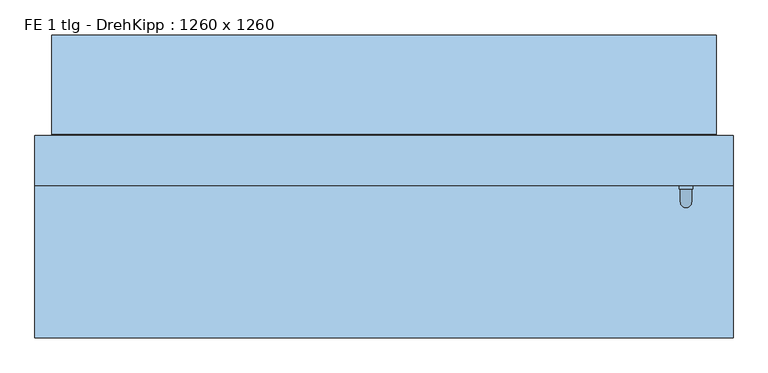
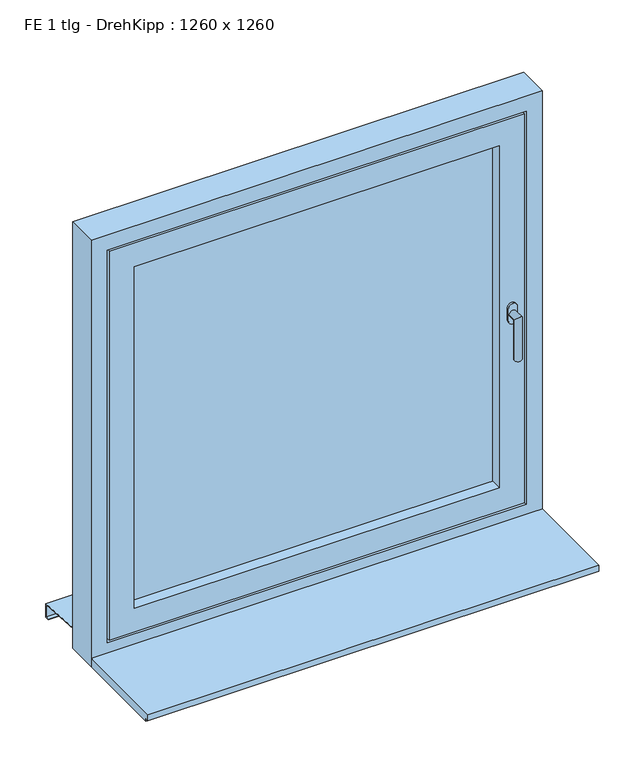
"""IFC4 building model written with IfcOpenShell, lengths in millimetres: window geometry, FE 1 tlg - DrehKipp : 1260 x 1260."""

from ifc_helpers import new_model, si_unit, frame, origin, place, context, project, spatial, polyline, circle_curve, ellipse_curve, outline, extrude, faceted_brep, source, transform, mapped, element, save
from ifc_brep_helpers import plane_surface, cylinder_surface, advanced_brep


def fe_1_tlg_drehkipp_1260_x_1260_6cbcbbed(model_context):
    return source(origin(), model_context, "Body", "SolidModel", [
        advanced_brep(
        [(532.5, 12.5, 1502.5), (557.5, 12.5, 1502.5), (557.5, 12.5, 1485.0), (557.5, 12.5, 1467.5), (532.5, 12.5, 1467.5), (532.5, 12.5, 1485.0), (555.0, -17.5, 1485.0), (555.0, 6.5, 1485.0), (535.0, 6.5, 1485.0), (535.0, -17.5, 1485.0), (555.0, -17.5, 1365.0), (535.0, -17.5, 1365.0), (532.5, 6.5, 1502.5), (532.5, 6.5, 1485.0), (532.5, 6.5, 1467.5), (557.5, 6.5, 1467.5), (557.5, 6.5, 1485.0), (557.5, 6.5, 1502.5)],
        [
            (0, 1, circle_curve(frame((545.0, 12.5, 1502.5), z_axis=(0.0, 1.0, 0.0), x_axis=(-1.0, 0.0, 0.0)), 12.5)),
            (1, 2),
            (2, 3),
            (3, 4, circle_curve(frame((545.0, 12.5, 1467.5), z_axis=(0.0, 1.0, 0.0), x_axis=(-1.0, 0.0, 0.0)), 12.5)),
            (4, 5),
            (5, 0),
            (6, 7),
            (7, 8, circle_curve(frame((545.0, 6.5, 1485.0), z_axis=(0.0, -1.0, 0.0), x_axis=(-1.0, 0.0, 0.0)), 10.0)),
            (8, 9),
            (9, 6, ellipse_curve(frame((545.0, -17.5, 1485.0), z_axis=(0.0, 0.7071067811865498, 0.7071067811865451), x_axis=(0.0, 0.7071067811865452, -0.7071067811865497)), 14.1421356, 10.0)),
            (8, 7, circle_curve(frame((545.0, 6.5, 1485.0), z_axis=(0.0, -1.0, 0.0), x_axis=(-1.0, 0.0, 0.0)), 10.0)),
            (6, 9, ellipse_curve(frame((545.0, -17.5, 1485.0), z_axis=(0.0, 0.7071067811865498, 0.7071067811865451), x_axis=(0.0, 0.7071067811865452, -0.7071067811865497)), 14.1421356, 10.0)),
            (10, 11, circle_curve(frame((545.0, -17.5, 1365.0), z_axis=(0.0, 0.0, -1.0), x_axis=(-1.0, 0.0, 0.0)), 10.0)),
            (11, 10, circle_curve(frame((545.0, -17.5, 1365.0), z_axis=(0.0, 0.0, -1.0), x_axis=(-1.0, 0.0, 0.0)), 10.0)),
            (9, 11),
            (10, 6),
            (12, 13),
            (13, 14),
            (14, 15, circle_curve(frame((545.0, 6.5, 1467.5), z_axis=(0.0, -1.0, 0.0), x_axis=(-1.0, 0.0, 0.0)), 12.5)),
            (15, 16),
            (16, 17),
            (17, 12, circle_curve(frame((545.0, 6.5, 1502.5), z_axis=(0.0, -1.0, 0.0), x_axis=(-1.0, 0.0, 0.0)), 12.5)),
            (17, 1),
            (0, 12),
            (16, 2),
            (15, 3),
            (14, 4),
            (13, 5),
        ],
        [
            plane_surface(frame((545.0, 12.5, 1485.0), z_axis=(0.0, 1.0, 0.0), x_axis=(-1.0, 0.0, 0.0))),
            cylinder_surface(frame((545.0, 12.5, 1485.0), z_axis=(0.0, 1.0, 0.0), x_axis=(-1.0, 0.0, 0.0)), 10.0),
            plane_surface(frame((545.0, -17.5, 1365.0), z_axis=(0.0, 0.0, -1.0), x_axis=(-1.0, 0.0, 0.0))),
            cylinder_surface(frame((545.0, -17.5, 1485.0), z_axis=(0.0, 0.0, 1.0), x_axis=(-1.0, 0.0, 0.0)), 10.0),
            plane_surface(frame((532.5, 6.5, 1502.5), z_axis=(0.0, -1.0, 0.0), x_axis=(0.0, 0.0, 1.0))),
            cylinder_surface(frame((545.0, 12.5, 1502.5), z_axis=(0.0, -1.0, 0.0), x_axis=(-1.0, 0.0, 0.0)), 12.5),
            plane_surface(frame((557.5, 6.5, 1502.5), z_axis=(1.0, 0.0, 0.0), x_axis=(0.0, 1.0, 0.0))),
            plane_surface(frame((557.5, 6.5, 1485.0), z_axis=(1.0, 0.0, 0.0), x_axis=(0.0, 1.0, 0.0))),
            cylinder_surface(frame((545.0, 12.5, 1467.5), z_axis=(0.0, -1.0, 0.0), x_axis=(-1.0, 0.0, 0.0)), 12.5),
            plane_surface(frame((532.5, 6.5, 1467.5), z_axis=(-1.0, 0.0, 0.0), x_axis=(0.0, 1.0, 0.0))),
            plane_surface(frame((532.5, 6.5, 1485.0), z_axis=(-1.0, 0.0, 0.0), x_axis=(0.0, 1.0, 0.0))),
        ],
        [
            (0, [[1, 2, 3, 4, 5, 6]]),
            (1, [[7, 8, 9, 10]]),
            (1, [[-9, 11, -7, 12]]),
            (2, [[13, 14]]),
            (3, [[15, -13, 16, -10]]),
            (3, [[-16, -14, -15, -12]]),
            (4, [[17, 18, 19, 20, 21, 22], [-11, -8]]),
            (5, [[23, -1, 24, -22]]),
            (6, [[25, -2, -23, -21]]),
            (7, [[26, -3, -25, -20]]),
            (8, [[27, -4, -26, -19]]),
            (9, [[28, -5, -27, -18]]),
            (10, [[-24, -6, -28, -17]]),
        ],
    ),
        faceted_brep([(-510.0, 12.5, 1990.0), (-510.0, 12.5, 980.0), (-510.0, 102.5, 980.0), (-510.0, 102.5, 1990.0), (-540.0, 102.5, 950.0), (-540.0, 102.5, 2020.0), (540.0, 102.5, 2020.0), (540.0, 102.5, 950.0), (510.0, 102.5, 980.0), (510.0, 102.5, 1990.0), (510.0, 12.5, 980.0), (-580.0, 12.5, 2060.0), (-580.0, 12.5, 910.0), (580.0, 12.5, 910.0), (580.0, 12.5, 2060.0), (510.0, 12.5, 1990.0), (-580.0, 27.5, 2060.0), (-580.0, 27.5, 910.0), (580.0, 27.5, 910.0), (580.0, 27.5, 2060.0), (-565.0, 27.5, 2045.0), (-565.0, 27.5, 925.0), (565.0, 27.5, 925.0), (565.0, 27.5, 2045.0), (-565.0, 57.5, 2045.0), (-565.0, 57.5, 925.0), (565.0, 57.5, 925.0), (565.0, 57.5, 2045.0), (-555.0, 57.5, 2035.0), (-555.0, 57.5, 935.0), (555.0, 57.5, 935.0), (555.0, 57.5, 2035.0), (-555.0, 87.5, 2035.0), (-555.0, 87.5, 935.0), (555.0, 87.5, 935.0), (555.0, 87.5, 2035.0), (-540.0, 87.5, 2020.0), (-540.0, 87.5, 950.0), (540.0, 87.5, 950.0), (540.0, 87.5, 2020.0)], [[[0, 1, 2, 3]], [[4, 5, 6, 7], [3, 2, 8, 9]], [[1, 10, 8, 2]], [[11, 12, 13, 14], [1, 0, 15, 10]], [[16, 17, 12, 11]], [[17, 18, 13, 12]], [[17, 16, 19, 18], [20, 21, 22, 23]], [[24, 25, 21, 20]], [[25, 26, 22, 21]], [[25, 24, 27, 26], [28, 29, 30, 31]], [[32, 33, 29, 28]], [[33, 34, 30, 29]], [[33, 32, 35, 34], [36, 37, 38, 39]], [[5, 4, 37, 36]], [[4, 7, 38, 37]], [[10, 15, 9, 8]], [[18, 19, 14, 13]], [[26, 27, 23, 22]], [[34, 35, 31, 30]], [[7, 6, 39, 38]], [[15, 0, 3, 9]], [[19, 16, 11, 14]], [[27, 24, 20, 23]], [[35, 32, 28, 31]], [[6, 5, 36, 39]]]),
        extrude(outline(polyline([(-510.0, 87.5), (510.0, 87.5), (510.0, 43.5), (-510.0, 43.5), (-510.0, 87.5)])), frame((0.0, 0.0, 980.0), z_axis=(0.0, 0.0, 1.0), x_axis=(1.0, 0.0, 0.0)), (0.0, 0.0, 1.0), 1010.0),
        faceted_brep([(-600.0, 284.5, 860.6252434), (-600.0, 262.5, 862.0002434), (-600.0, 104.5, 871.8752434), (600.0, 104.5, 871.8752434), (600.0, 262.5, 862.0002434), (600.0, 284.5, 860.6252434), (-600.0, 284.5, 820.6252434), (600.0, 284.5, 820.6252434), (-600.0, 272.5, 820.6252434), (600.0, 272.5, 820.6252434), (-600.0, 272.5, 822.6252434), (600.0, 272.5, 822.6252434), (-600.0, 282.5, 822.6252434), (600.0, 282.5, 822.6252434), (-600.0, 282.5, 858.75), (600.0, 282.5, 858.75), (-600.0, 262.5, 860.0), (600.0, 262.5, 860.0), (600.0, 102.5, 870.0), (-600.0, 102.5, 870.0), (-600.0, 102.5, 890.0), (600.0, 102.5, 890.0), (-600.0, 104.5, 890.0), (600.0, 104.5, 890.0)], [[[0, 1, 2, 3, 4, 5]], [[6, 0, 5, 7]], [[8, 6, 7, 9]], [[10, 8, 9, 11]], [[12, 10, 11, 13]], [[14, 12, 13, 15]], [[16, 14, 15, 17, 18, 19]], [[20, 19, 18, 21]], [[22, 20, 21, 23]], [[2, 22, 23, 3]], [[16, 1, 0, 6, 8, 10, 12, 14]], [[17, 4, 3, 23, 21, 18]], [[1, 16, 19, 20, 22, 2]], [[4, 17, 15, 13, 11, 9, 7, 5]]]),
        faceted_brep([(630.0, 102.5, 850.0), (630.0, 12.5, 850.0), (-630.0, 12.5, 850.0), (-630.0, 102.5, 850.0), (630.0, 102.5, 2110.0), (630.0, 12.5, 2110.0), (-630.0, 12.5, 2110.0), (585.0, 12.5, 2065.0), (585.0, 12.5, 905.0), (-585.0, 12.5, 905.0), (-585.0, 12.5, 2065.0), (-630.0, 102.5, 2110.0), (545.0, 102.5, 945.0), (545.0, 102.5, 2025.0), (-545.0, 102.5, 2025.0), (-545.0, 102.5, 945.0), (545.0, 87.5, 945.0), (545.0, 87.5, 2025.0), (-545.0, 87.5, 945.0), (-545.0, 87.5, 2025.0), (585.0, 27.5, 2065.0), (585.0, 27.5, 905.0), (-585.0, 27.5, 905.0), (-585.0, 27.5, 2065.0), (570.0, 27.5, 2050.0), (570.0, 27.5, 920.0), (-570.0, 27.5, 920.0), (-570.0, 27.5, 2050.0), (570.0, 57.5, 920.0), (570.0, 57.5, 2050.0), (-570.0, 57.5, 2050.0), (-570.0, 57.5, 920.0), (560.0, 57.5, 2040.0), (560.0, 57.5, 930.0), (-560.0, 57.5, 930.0), (-560.0, 57.5, 2040.0), (560.0, 87.5, 930.0), (560.0, 87.5, 2040.0), (-560.0, 87.5, 2040.0), (-560.0, 87.5, 930.0)], [[[0, 1, 2, 3]], [[4, 5, 1, 0]], [[5, 6, 2, 1], [7, 8, 9, 10]], [[6, 11, 3, 2]], [[11, 4, 0, 3], [12, 13, 14, 15]], [[12, 16, 17, 13]], [[18, 15, 14, 19]], [[16, 12, 15, 18]], [[20, 21, 8, 7]], [[8, 21, 22, 9]], [[9, 22, 23, 10]], [[21, 20, 23, 22], [24, 25, 26, 27]], [[28, 29, 30, 31], [32, 33, 34, 35]], [[29, 28, 25, 24]], [[25, 28, 31, 26]], [[36, 37, 38, 39], [17, 16, 18, 19]], [[37, 36, 33, 32]], [[33, 36, 39, 34]], [[26, 31, 30, 27]], [[34, 39, 38, 35]], [[4, 11, 6, 5]], [[20, 7, 10, 23]], [[29, 24, 27, 30]], [[37, 32, 35, 38]], [[13, 17, 19, 14]]]),
        extrude(outline(polyline([(-262.5, 875.0), (12.5, 875.0), (12.5, 850.0), (-252.5, 850.0), (-252.5, 857.0), (-262.5, 857.0), (-262.5, 875.0)])), frame((-630.0, 0.0, 0.0), z_axis=(1.0, 0.0, 0.0), x_axis=(0.0, 1.0, 0.0)), (0.0, 0.0, 1.0), 1260.0),
    ])


if __name__ == "__main__":
    model = new_model("IFC4")
    model_context = context("Model", 3, world=origin())
    ifc_project = project(units=[si_unit("LENGTHUNIT", "METRE", prefix="MILLI")], contexts=[model_context])
    site = spatial("IfcSite", under=ifc_project)
    building = spatial("IfcBuilding", under=site)
    placement = place(None, origin())
    fe_1_tlg_drehkipp_1260_x_1260_shape = fe_1_tlg_drehkipp_1260_x_1260_6cbcbbed(model_context)
    element("IfcWindow", 1, ObjectType="FE 1 tlg - DrehKipp : 1260 x 1260", at=placement, inside=building, context=model_context, shape_type="MappedRepresentation", body=[
        mapped(fe_1_tlg_drehkipp_1260_x_1260_shape, transform((0.0, 0.0, 0.0), x_axis=(1.0, 0.0, 0.0), y_axis=(0.0, 1.0, 0.0), z_axis=(0.0, 0.0, 1.0))),
    ])
    save(model, "model.ifc")
